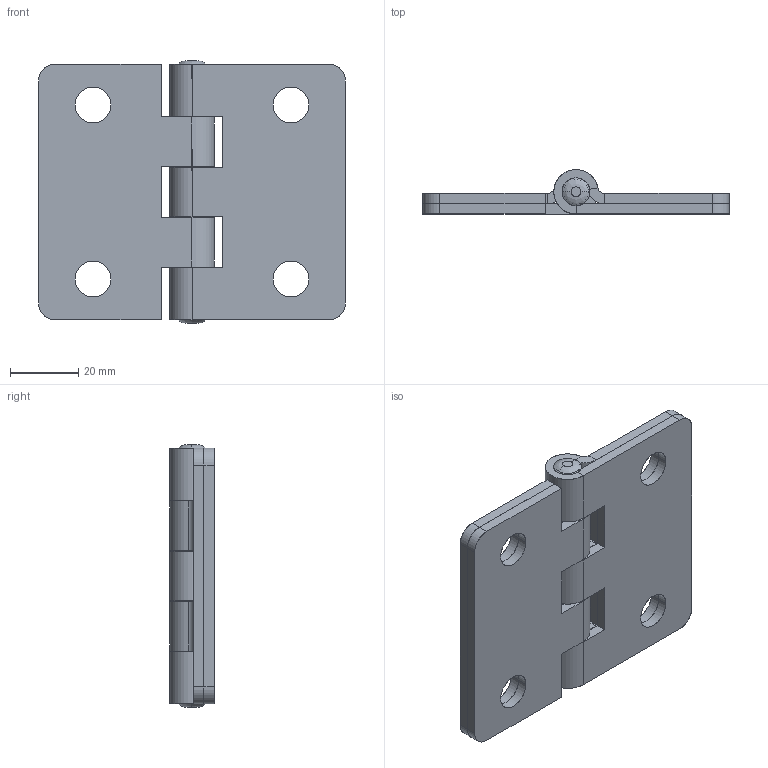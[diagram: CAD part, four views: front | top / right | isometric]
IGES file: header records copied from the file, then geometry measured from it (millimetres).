
Start section: SolidWorks IGES file using analytic representation for surfaces
Global section: file name: Z:\Mes documents\ATAO iges\Gamme CC\CC 409\CC 409.IGS; native system: SolidWorks 2008; preprocessor: SolidWorks 2008; author: cbrechard; date: 110628.162247; units: millimetre
Bounding box: 90 x 13 x 77 mm (x, y, z)
Surface area: 31500.7 mm2 (no closed solid volume)
Topology: 0 solids, 0 shells, 120 faces, 2120 edges, 2120 vertices
Faces by surface type: bspline 74, revolution 46
